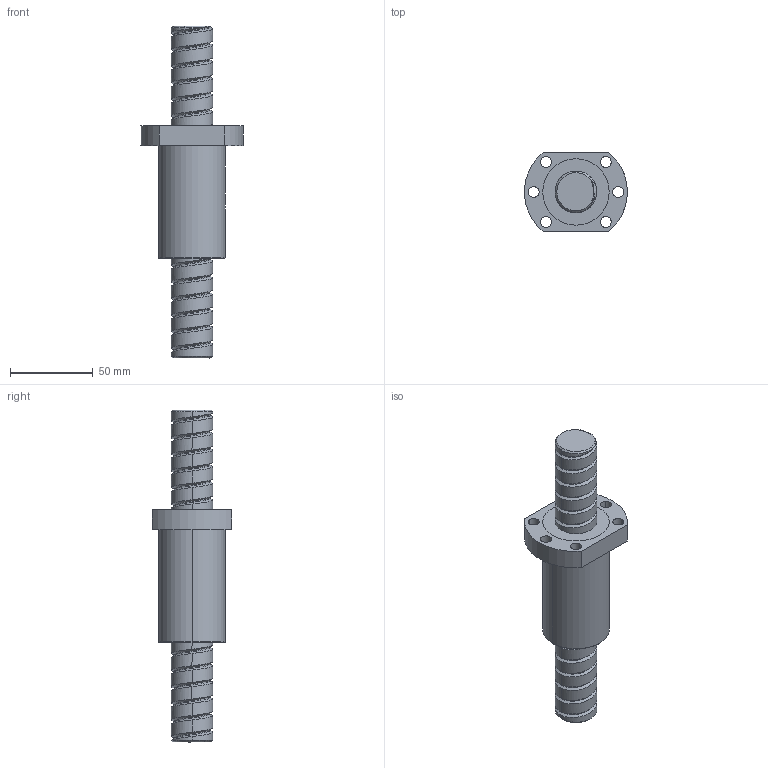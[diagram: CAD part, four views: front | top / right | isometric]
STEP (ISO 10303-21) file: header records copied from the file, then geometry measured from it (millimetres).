
FILE_DESCRIPTION (( 'STEP AP214' ), '1' );
FILE_NAME ('SFU2510-C-SFU2510.STEP', '2025-04-25T13:00:50', ( '' ), ( '' ), 'SwSTEP 2.0', 'SolidWorks 2019', '' );
FILE_SCHEMA (( 'AUTOMOTIVE_DESIGN' ));
Length unit declared in the file: millimetre
Products named in the file (3): SFU2510-C-SFU2510; C-SFU25; SFU2510
Assembly tree (2 placements, depth 2):
  SFU2510-C-SFU2510
    SFU2510
    C-SFU25
Bounding box: 61.9 x 48 x 200 mm (x, y, z)
Volume: 169177.8 mm3; surface area: 46112 mm2
Topology: 4 solids, 4 shells, 114 faces, 350 edges, 248 vertices
Faces by surface type: cylinder 91, plane 13, cone 5, bspline 3, torus 2
Entity records: 20576 total; most frequent: CARTESIAN_POINT 17505, ORIENTED_EDGE 700, DIRECTION 519, EDGE_CURVE 350, VERTEX_POINT 248, AXIS2_PLACEMENT_3D 201, EDGE_LOOP 138, VECTOR 117
